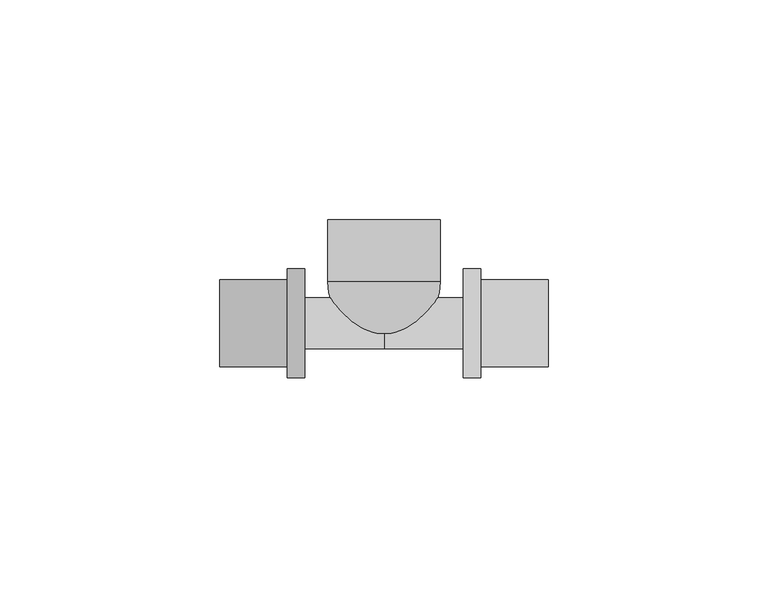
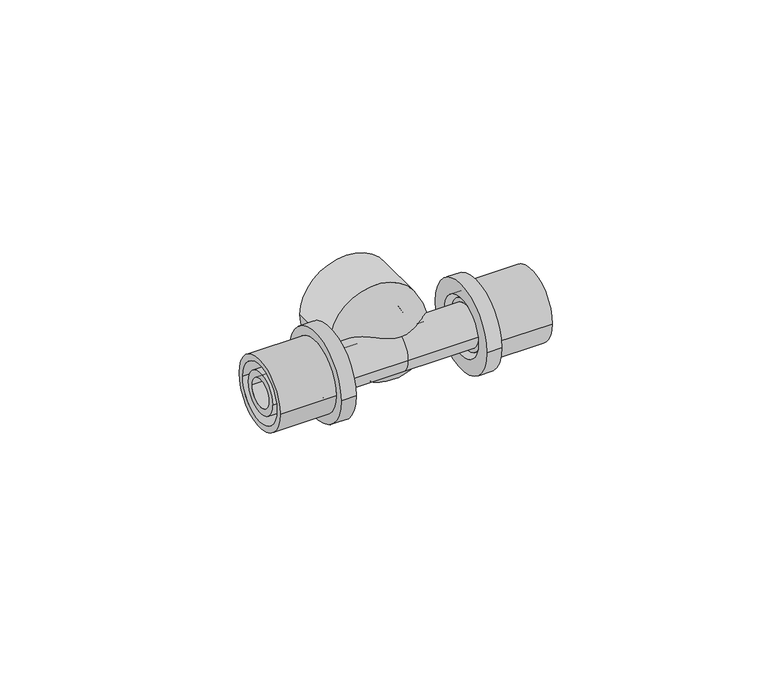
"""IFC4 building model written with IfcOpenShell, lengths in millimetres: pipe fitting geometry, FASTLOC_T-piece internal thread EX+ : FSL T thread EX+ AT."""

import ifcopenshell
import ifcopenshell.guid

model = None  # the IFC model being written
_history = None  # IfcOwnerHistory: only IFC2X3 demands one
_inside = {}  # id of a spatial element -> (the spatial element, [elements in it])
_under = {}  # id of a project, library or spatial element -> (it, [spatial elements below it])
_declared = {}  # id of a project -> (the project, [libraries it declares])
_typed = {}  # id of a type object -> (the type object, [elements of that type])
_made_of = {}  # id of a material, layer set ... -> (it, [elements and type objects made of it])


def new_model(schema):
    """Start an empty IFC model of exactly this schema.

    Asked for "IFC4X3", IfcOpenShell would pick the latest addendum, in which some entities
    have other attributes; the version numbers below select the first issue.
    IFC2X3 requires an IfcOwnerHistory on every rooted entity: one is made here for all.
    """
    global model, _history
    if schema == "IFC4X3":
        model = ifcopenshell.file(schema_version=(4, 3, 0, 0))
    else:
        model = ifcopenshell.file(schema=schema)
    _inside.clear()
    _under.clear()
    _declared.clear()
    _typed.clear()
    _made_of.clear()
    _history = None
    if model.schema == "IFC2X3":
        org = make("IfcOrganization", Name="unknown")
        user = make(
            "IfcPersonAndOrganization",
            ThePerson=make("IfcPerson", FamilyName="unknown"),
            TheOrganization=org,
        )
        app = make(
            "IfcApplication",
            ApplicationDeveloper=org,
            Version="unknown",
            ApplicationFullName="unknown",
            ApplicationIdentifier="unknown",
        )
        _history = make(
            "IfcOwnerHistory",
            OwningUser=user,
            OwningApplication=app,
            ChangeAction="ADDED",
            CreationDate=0,
        )
    return model


def make(cls, **values):
    """One entity of the class cls with the attributes given. An attribute that is None is left unset."""
    return model.create_entity(
        cls, **{name: value for name, value in values.items() if value is not None}
    )


def rooted(cls, **values):
    """An entity with a GlobalId (a new one), such as an element, a storey or a relation."""
    return make(cls, GlobalId=ifcopenshell.guid.new(), OwnerHistory=_history, **values)


def si_unit(unit_type, name, prefix=None):
    """IfcSIUnit, for example si_unit("LENGTHUNIT", "METRE", prefix="MILLI")."""
    return make("IfcSIUnit", UnitType=unit_type, Prefix=prefix, Name=name)


def assignment(units):
    """IfcUnitAssignment: the units of a project."""
    return None if units is None else make("IfcUnitAssignment", Units=units)


def point(xyz):
    """IfcCartesianPoint."""
    return None if xyz is None else make("IfcCartesianPoint", Coordinates=xyz)


def direction(xyz):
    """IfcDirection."""
    return None if xyz is None else make("IfcDirection", DirectionRatios=xyz)


def frame(location, z_axis=None, x_axis=None):
    """IfcAxis2Placement3D, a coordinate frame: its origin and axes. An axis left out is left unset."""
    return make(
        "IfcAxis2Placement3D",
        Location=point(location),
        Axis=direction(z_axis),
        RefDirection=direction(x_axis),
    )


def origin():
    """The frame at (0, 0, 0) with its axes left unset."""
    return frame((0.0, 0.0, 0.0))


def place(relative_to, where):
    """IfcLocalPlacement: puts the frame where relative to a parent placement (None: the world)."""
    return make(
        "IfcLocalPlacement", PlacementRelTo=relative_to, RelativePlacement=where
    )


def context(
    kind, dimensions, precision=None, world=None, true_north=None, identifier=None
):
    """IfcGeometricRepresentationContext, for example the 3D "Model" context."""
    return make(
        "IfcGeometricRepresentationContext",
        ContextIdentifier=identifier,
        ContextType=kind,
        CoordinateSpaceDimension=dimensions,
        Precision=precision,
        WorldCoordinateSystem=world,
        TrueNorth=true_north,
    )


def project(units=None, contexts=None):
    """IfcProject with its units and contexts."""
    return rooted(
        "IfcProject",
        Name="project",
        RepresentationContexts=contexts,
        UnitsInContext=assignment(units),
    )


def spatial(cls, under=None, at=None, **own):
    """A site, building, storey or space (cls), placed at a placement, below another one or the project."""
    s = rooted(cls, ObjectPlacement=at, **own)
    if under is not None:
        _under.setdefault(under.id(), (under, []))[1].append(s)
    return s


def polyline(points):
    """IfcPolyline through the points."""
    return make("IfcPolyline", Points=[point(p) for p in points])


def circle_curve(where, radius):
    """IfcCircle in the frame where."""
    return make("IfcCircle", Position=where, Radius=radius)


def ellipse_curve(where, semi_axis1, semi_axis2):
    """IfcEllipse in the frame where."""
    return make(
        "IfcEllipse", Position=where, SemiAxis1=semi_axis1, SemiAxis2=semi_axis2
    )


def trimmed(basis, trim1, trim2, sense, master):
    """IfcTrimmedCurve: the piece of a basis curve between two trims."""
    return make(
        "IfcTrimmedCurve",
        BasisCurve=basis,
        Trim1=trim1,
        Trim2=trim2,
        SenseAgreement=sense,
        MasterRepresentation=master,
    )


def shape(context_of_items, identifier, shape_type, items):
    """IfcShapeRepresentation: the items that make up one representation, for example the "Body"."""
    return make(
        "IfcShapeRepresentation",
        ContextOfItems=context_of_items,
        RepresentationIdentifier=identifier,
        RepresentationType=shape_type,
        Items=items,
    )


def source(mapping_origin, context_of_items, identifier, shape_type, items):
    """IfcRepresentationMap: a shape defined once, which mapped items show again and again."""
    return make(
        "IfcRepresentationMap",
        MappingOrigin=mapping_origin,
        MappedRepresentation=shape(context_of_items, identifier, shape_type, items),
    )


def transform(
    local_origin,
    x_axis=None,
    y_axis=None,
    z_axis=None,
    scale=None,
    scale2=None,
    scale3=None,
    uniform=True,
):
    """IfcCartesianTransformationOperator3D, or its non-uniform kind. x_axis, y_axis, z_axis: its Axis1, 2, 3."""
    if uniform:
        return make(
            "IfcCartesianTransformationOperator3D",
            Axis1=direction(x_axis),
            Axis2=direction(y_axis),
            LocalOrigin=point(local_origin),
            Scale=scale,
            Axis3=direction(z_axis),
        )
    return make(
        "IfcCartesianTransformationOperator3DnonUniform",
        Axis1=direction(x_axis),
        Axis2=direction(y_axis),
        LocalOrigin=point(local_origin),
        Scale=scale,
        Axis3=direction(z_axis),
        Scale2=scale2,
        Scale3=scale3,
    )


def mapped(mapping_source, mapping_target):
    """IfcMappedItem: shows the shape of a source again, moved by a transform."""
    return make(
        "IfcMappedItem", MappingSource=mapping_source, MappingTarget=mapping_target
    )


def made_of(thing, what):
    """Note that an element or type object is made of a material, layer set ...; save() writes the relation."""
    if what is not None:
        _made_of.setdefault(what.id(), (what, []))[1].append(thing)
    return thing


def element(
    cls,
    number,
    at=None,
    inside=None,
    cuts=None,
    type_object=None,
    material=None,
    context=None,
    identifier="Body",
    shape_type=None,
    held_by="IfcProductDefinitionShape",
    body=None,
    shapes=None,
    **own,
):
    """One element of the class cls, such as IfcWall. Its Tag is "e" and its number.

    at: its placement. inside: the storey or other place that contains it. cuts: it is an
    opening in that element (IfcRelVoidsElement). A single representation is given by context,
    identifier, shape_type and body (its items); several are given by shapes. held_by: the class
    of the entity that holds the representations. save() writes the other relations.
    """
    e = rooted(cls, Tag="e%d" % number, ObjectPlacement=at, **own)
    if body is not None:
        shapes = [shape(context, identifier, shape_type, body)]
    if shapes is not None:
        e.Representation = make(held_by, Representations=shapes)
    if inside is not None:
        _inside.setdefault(inside.id(), (inside, []))[1].append(e)
    if cuts is not None:
        rooted(
            "IfcRelVoidsElement", RelatingBuildingElement=cuts, RelatedOpeningElement=e
        )
    if type_object is not None:
        _typed.setdefault(type_object.id(), (type_object, []))[1].append(e)
    return made_of(e, material)


def aggregate(whole, parts):
    """IfcRelAggregates: a whole, such as a stair, and the parts it consists of."""
    return rooted("IfcRelAggregates", RelatingObject=whole, RelatedObjects=parts)


def save(model, path):
    """Write the relations noted so far, then the file.

    IfcRelAggregates (storeys below a building ...), IfcRelContainedInSpatialStructure (elements
    in a storey), IfcRelDefinesByType, IfcRelAssociatesMaterial and IfcRelDeclares: one each for
    every whole, place, type object, material and project.
    """
    for whole, parts in _under.values():
        aggregate(whole, parts)
    for where, things in _inside.values():
        rooted(
            "IfcRelContainedInSpatialStructure",
            RelatedElements=things,
            RelatingStructure=where,
        )
    for kind, things in _typed.values():
        rooted("IfcRelDefinesByType", RelatedObjects=things, RelatingType=kind)
    for what, things in _made_of.values():
        rooted("IfcRelAssociatesMaterial", RelatedObjects=things, RelatingMaterial=what)
    for by, libraries in _declared.values():
        rooted("IfcRelDeclares", RelatingContext=by, RelatedDefinitions=libraries)
    model.write(path)


def plane_surface(at):
    """IfcPlane: the flat surface through the origin of the frame at, square to its z axis."""
    return make("IfcPlane", Position=at)


def cylinder_surface(at, radius):
    """IfcCylindricalSurface: all points at the distance radius from the z axis of the frame at."""
    return make("IfcCylindricalSurface", Position=at, Radius=radius)


def revolved_surface(curve, axis_point, axis_direction):
    """IfcSurfaceOfRevolution: the curve turned about the line through axis_point along axis_direction."""
    return make(
        "IfcSurfaceOfRevolution",
        SweptCurve=make("IfcArbitraryOpenProfileDef", ProfileType="CURVE", Curve=curve),
        AxisPosition=make("IfcAxis1Placement", Location=point(axis_point), Axis=direction(axis_direction)),
    )


def advanced_brep(points, edges, surfaces, faces):
    """IfcAdvancedBrep: a solid bounded by faces that lie on surfaces and meet in shared edges.

    An edge is (start, end): straight between two places in points (the first is 0);
    or (start, end, curve); or (start, end, curve, False) where it runs against its curve.
    A face is (place in surfaces, loops), or (place, loops, False) where it looks against
    its surface's normal. A loop lists edges by number (the first is 1), with a minus sign
    where the edge is run from its end to its start. The first loop is the outer one.
    """
    corners = [point(p) for p in points]
    vertices = [make("IfcVertexPoint", VertexGeometry=c) for c in corners]
    made = []
    for start, end, *more in edges:
        made.append(
            make(
                "IfcEdgeCurve",
                EdgeStart=vertices[start],
                EdgeEnd=vertices[end],
                EdgeGeometry=more[0] if more else make("IfcPolyline", Points=[corners[start], corners[end]]),
                SameSense=more[1] if len(more) > 1 else True,
            )
        )
    hull = []
    for where, loops, *sense in faces:
        bounds = []
        for j, loop in enumerate(loops):
            ring = [make("IfcOrientedEdge", EdgeElement=made[abs(k) - 1], Orientation=k > 0) for k in loop]
            bounds.append(
                make(
                    "IfcFaceOuterBound" if j == 0 else "IfcFaceBound",
                    Bound=make("IfcEdgeLoop", EdgeList=ring),
                    Orientation=True,
                )
            )
        hull.append(make("IfcAdvancedFace", Bounds=bounds, FaceSurface=surfaces[where], SameSense=sense[0] if sense else True))
    return make("IfcAdvancedBrep", Outer=make("IfcClosedShell", CfsFaces=hull))


def pipe_fitting_15fe286b(model_context):
    return source(origin(), model_context, "Body", "AdvancedBrep", [
        advanced_brep(
        [(22.0, 12.35, 0.0), (22.0, -12.35, 0.0), (18.0, -12.35, 0.0), (18.0, 12.35, 0.0), (37.3, 9.85, 0.0), (37.3, -9.85, 0.0), (22.0, -9.85, 0.0), (22.0, 9.85, 0.0), (18.0, 8.15, 0.0), (18.0, -8.15, 0.0), (37.3, -8.15, 0.0), (37.3, 8.15, 0.0)],
        [
            (0, 1, circle_curve(frame((22.0, 0.0, 0.0), z_axis=(-1.0, 0.0, 0.0), x_axis=(0.0, -1.0, 0.0)), 12.35)),
            (1, 2),
            (2, 3, circle_curve(frame((18.0, 0.0, 0.0), z_axis=(1.0, 0.0, 0.0), x_axis=(0.0, -1.0, 0.0)), 12.35)),
            (3, 0),
            (4, 5, circle_curve(frame((37.3, 0.0, 0.0), z_axis=(-1.0, 0.0, 0.0), x_axis=(0.0, -1.0, 0.0)), 9.85)),
            (5, 6),
            (6, 7, circle_curve(frame((22.0, 0.0, 0.0), z_axis=(1.0, 0.0, 0.0), x_axis=(0.0, -1.0, 0.0)), 9.85)),
            (7, 4),
            (8, 9, circle_curve(frame((18.0, 0.0, 0.0), z_axis=(-1.0, 0.0, 0.0), x_axis=(0.0, -1.0, 0.0)), 8.15)),
            (9, 10),
            (10, 11, circle_curve(frame((37.3, 0.0, 0.0), z_axis=(1.0, 0.0, 0.0), x_axis=(0.0, -1.0, 0.0)), 8.15)),
            (11, 8),
            (1, 0, circle_curve(frame((22.0, 0.0, 0.0), z_axis=(-1.0, 0.0, 0.0), x_axis=(0.0, 1.0, 0.0)), 12.35)),
            (3, 2, circle_curve(frame((18.0, 0.0, 0.0), z_axis=(1.0, 0.0, 0.0), x_axis=(0.0, 1.0, 0.0)), 12.35)),
            (6, 7, circle_curve(frame((22.0, 0.0, 0.0), z_axis=(-1.0, 0.0, 0.0), x_axis=(0.0, 1.0, 0.0)), 9.85)),
            (5, 4, circle_curve(frame((37.3, 0.0, 0.0), z_axis=(-1.0, 0.0, 0.0), x_axis=(0.0, 1.0, 0.0)), 9.85)),
            (10, 11, circle_curve(frame((37.3, 0.0, 0.0), z_axis=(-1.0, 0.0, 0.0), x_axis=(0.0, 1.0, 0.0)), 8.15)),
            (9, 8, circle_curve(frame((18.0, 0.0, 0.0), z_axis=(-1.0, 0.0, 0.0), x_axis=(0.0, 1.0, 0.0)), 8.15)),
        ],
        [
            cylinder_surface(frame((18.0, 0.0, 0.0), z_axis=(1.0, 0.0, 0.0), x_axis=(0.0, -1.0, 0.0)), 12.35),
            cylinder_surface(frame((18.0, 0.0, 0.0), z_axis=(1.0, 0.0, 0.0), x_axis=(0.0, -1.0, 0.0)), 9.85),
            revolved_surface(polyline([(37.3, -8.15, 0.0), (18.0, -8.15, 0.0)]), (18.0, 0.0, 0.0), (1.0, 0.0, 0.0)),
            cylinder_surface(frame((18.0, 0.0, 0.0), z_axis=(1.0, 0.0, 0.0), x_axis=(0.0, 1.0, 0.0)), 12.35),
            plane_surface(frame((22.0, 0.0, 0.0), z_axis=(1.0, 0.0, 0.0), x_axis=(0.0, 1.0, 0.0))),
            cylinder_surface(frame((18.0, 0.0, 0.0), z_axis=(1.0, 0.0, 0.0), x_axis=(0.0, 1.0, 0.0)), 9.85),
            plane_surface(frame((37.3, 0.0, 0.0), z_axis=(1.0, 0.0, 0.0), x_axis=(0.0, 1.0, 0.0))),
            revolved_surface(polyline([(37.3, 8.15, 0.0), (18.0, 8.15, 0.0)]), (18.0, 0.0, 0.0), (1.0, 0.0, 0.0)),
            plane_surface(frame((18.0, 0.0, 0.0), z_axis=(-1.0, 0.0, 0.0), x_axis=(0.0, 1.0, 0.0))),
        ],
        [
            (0, [[1, 2, 3, 4]]),
            (1, [[5, 6, 7, 8]]),
            (2, [[9, 10, 11, 12]]),
            (3, [[13, -4, 14, -2]]),
            (4, [[-13, -1], [15, -7]]),
            (5, [[16, -8, -15, -6]]),
            (6, [[-16, -5], [17, -11]]),
            (7, [[18, -12, -17, -10]]),
            (8, [[-14, -3], [-18, -9]]),
        ],
    ),
        advanced_brep(
        [(-22.0, -12.35, 0.0), (-22.0, 12.35, 0.0), (-18.0, 12.35, 0.0), (-18.0, -12.35, 0.0), (-37.3, -9.85, 0.0), (-37.3, 9.85, 0.0), (-22.0, 9.85, 0.0), (-22.0, -9.85, 0.0), (-18.0, -8.15, 0.0), (-18.0, 8.15, 0.0), (-37.3, 8.15, 0.0), (-37.3, -8.15, 0.0)],
        [
            (0, 1, circle_curve(frame((-22.0, 0.0, 0.0), z_axis=(1.0, 0.0, 0.0), x_axis=(0.0, 1.0, 0.0)), 12.35)),
            (1, 2),
            (2, 3, circle_curve(frame((-18.0, 0.0, 0.0), z_axis=(-1.0, 0.0, 0.0), x_axis=(0.0, 1.0, 0.0)), 12.35)),
            (3, 0),
            (4, 5, circle_curve(frame((-37.3, 0.0, 0.0), z_axis=(1.0, 0.0, 0.0), x_axis=(0.0, 1.0, 0.0)), 9.85)),
            (5, 6),
            (6, 7, circle_curve(frame((-22.0, 0.0, 0.0), z_axis=(-1.0, 0.0, 0.0), x_axis=(0.0, 1.0, 0.0)), 9.85)),
            (7, 4),
            (8, 9, circle_curve(frame((-18.0, 0.0, 0.0), z_axis=(1.0, 0.0, 0.0), x_axis=(0.0, 1.0, 0.0)), 8.15)),
            (9, 10),
            (10, 11, circle_curve(frame((-37.3, 0.0, 0.0), z_axis=(-1.0, 0.0, 0.0), x_axis=(0.0, 1.0, 0.0)), 8.15)),
            (11, 8),
            (1, 0, circle_curve(frame((-22.0, 0.0, 0.0), z_axis=(1.0, 0.0, 0.0), x_axis=(0.0, -1.0, 0.0)), 12.35)),
            (3, 2, circle_curve(frame((-18.0, 0.0, 0.0), z_axis=(-1.0, 0.0, 0.0), x_axis=(0.0, -1.0, 0.0)), 12.35)),
            (6, 7, circle_curve(frame((-22.0, 0.0, 0.0), z_axis=(1.0, 0.0, 0.0), x_axis=(0.0, -1.0, 0.0)), 9.85)),
            (5, 4, circle_curve(frame((-37.3, 0.0, 0.0), z_axis=(1.0, 0.0, 0.0), x_axis=(0.0, -1.0, 0.0)), 9.85)),
            (10, 11, circle_curve(frame((-37.3, 0.0, 0.0), z_axis=(1.0, 0.0, 0.0), x_axis=(0.0, -1.0, 0.0)), 8.15)),
            (9, 8, circle_curve(frame((-18.0, 0.0, 0.0), z_axis=(1.0, 0.0, 0.0), x_axis=(0.0, -1.0, 0.0)), 8.15)),
        ],
        [
            cylinder_surface(frame((-18.0, 0.0, 0.0), z_axis=(-1.0, 0.0, 0.0), x_axis=(0.0, 1.0, 0.0)), 12.35),
            cylinder_surface(frame((-18.0, 0.0, 0.0), z_axis=(-1.0, 0.0, 0.0), x_axis=(0.0, 1.0, 0.0)), 9.85),
            revolved_surface(polyline([(-37.3, 8.15, 0.0), (-18.0, 8.15, 0.0)]), (-18.0, 0.0, 0.0), (-1.0, 0.0, 0.0)),
            cylinder_surface(frame((-18.0, 0.0, 0.0), z_axis=(-1.0, 0.0, 0.0), x_axis=(0.0, -1.0, 0.0)), 12.35),
            plane_surface(frame((-22.0, 0.0, 0.0), z_axis=(-1.0, 0.0, 0.0), x_axis=(0.0, -1.0, 0.0))),
            cylinder_surface(frame((-18.0, 0.0, 0.0), z_axis=(-1.0, 0.0, 0.0), x_axis=(0.0, -1.0, 0.0)), 9.85),
            plane_surface(frame((-37.3, 0.0, 0.0), z_axis=(-1.0, 0.0, 0.0), x_axis=(0.0, -1.0, 0.0))),
            revolved_surface(polyline([(-37.3, -8.15, 0.0), (-18.0, -8.15, 0.0)]), (-18.0, 0.0, 0.0), (-1.0, 0.0, 0.0)),
            plane_surface(frame((-18.0, 0.0, 0.0), z_axis=(1.0, 0.0, 0.0), x_axis=(0.0, -1.0, 0.0))),
        ],
        [
            (0, [[1, 2, 3, 4]]),
            (1, [[5, 6, 7, 8]]),
            (2, [[9, 10, 11, 12]]),
            (3, [[13, -4, 14, -2]]),
            (4, [[-13, -1], [15, -7]]),
            (5, [[16, -8, -15, -6]]),
            (6, [[-16, -5], [17, -11]]),
            (7, [[18, -12, -17, -10]]),
            (8, [[-14, -3], [-18, -9]]),
        ],
    ),
        advanced_brep(
        [(0.5, -3.3401923, 0.0), (-0.5, -3.3401923, 0.0), (-12.75, 9.4, 0.0), (12.75, 9.4, 0.0), (0.5, 1.9166852, 0.0), (-0.5, 1.9166852, 0.0), (7.5, 9.4, 0.0), (-7.5, 9.4, 0.0), (7.5, 23.5, 0.0), (-7.5, 23.5, 0.0), (-12.75, 23.5, 0.0), (12.75, 23.5, 0.0)],
        [
            (0, 1, circle_curve(frame((0.0, -3.3401923, 0.0), z_axis=(0.0, 1.0, 0.0), x_axis=(-1.0, 0.0, 0.0)), 0.5)),
            (1, 2, circle_curve(frame((0.0, 9.4, 0.0), z_axis=(0.0, 0.0, -1.0), x_axis=(0.0, 1.0, 0.0)), 12.75)),
            (2, 3, circle_curve(frame((0.0, 9.4, 0.0), z_axis=(0.0, -1.0, 0.0), x_axis=(-1.0, 0.0, 0.0)), 12.75)),
            (3, 0, circle_curve(frame((0.0, 9.4, 0.0), z_axis=(0.0, 0.0, -1.0), x_axis=(0.0, 1.0, 0.0)), 12.75)),
            (4, 5, circle_curve(frame((0.0, 1.9166852, 0.0), z_axis=(0.0, 1.0, 0.0), x_axis=(-1.0, 0.0, 0.0)), 0.5)),
            (5, 1),
            (0, 4),
            (6, 7, circle_curve(frame((0.0, 9.4, 0.0), z_axis=(0.0, 1.0, 0.0), x_axis=(-1.0, 0.0, 0.0)), 7.5)),
            (7, 5, circle_curve(frame((0.0, 9.4, 0.0), z_axis=(0.0, 0.0, 1.0), x_axis=(0.0, 1.0, 0.0)), 7.5)),
            (4, 6, circle_curve(frame((0.0, 9.4, 0.0), z_axis=(0.0, 0.0, 1.0), x_axis=(0.0, 1.0, 0.0)), 7.5)),
            (8, 9, circle_curve(frame((0.0, 23.5, 0.0), z_axis=(0.0, 1.0, 0.0), x_axis=(-1.0, 0.0, 0.0)), 7.5)),
            (9, 7),
            (6, 8),
            (2, 10),
            (10, 11, circle_curve(frame((0.0, 23.5, 0.0), z_axis=(0.0, -1.0, 0.0), x_axis=(-1.0, 0.0, 0.0)), 12.75)),
            (11, 3),
            (1, 0, circle_curve(frame((0.0, -3.3401923, 0.0), z_axis=(0.0, 1.0, 0.0), x_axis=(1.0, 0.0, 0.0)), 0.5)),
            (3, 2, circle_curve(frame((0.0, 9.4, 0.0), z_axis=(0.0, -1.0, 0.0), x_axis=(1.0, 0.0, 0.0)), 12.75)),
            (5, 4, circle_curve(frame((0.0, 1.9166852, 0.0), z_axis=(0.0, 1.0, 0.0), x_axis=(1.0, 0.0, 0.0)), 0.5)),
            (7, 6, circle_curve(frame((0.0, 9.4, 0.0), z_axis=(0.0, 1.0, 0.0), x_axis=(1.0, 0.0, 0.0)), 7.5)),
            (9, 8, circle_curve(frame((0.0, 23.5, 0.0), z_axis=(0.0, 1.0, 0.0), x_axis=(1.0, 0.0, 0.0)), 7.5)),
            (10, 11, circle_curve(frame((0.0, 23.5, 0.0), z_axis=(0.0, 1.0, 0.0), x_axis=(1.0, 0.0, 0.0)), 12.75)),
        ],
        [
            revolved_surface(trimmed(ellipse_curve(frame((0.0, 9.4, 0.0), z_axis=(0.0, 0.0, 1.0), x_axis=(0.0, 1.0, 0.0)), 12.75, 12.75), [point((-12.75, 9.4, 0.0))], [point((-0.5, -3.3401923, 0.0))], True, "CARTESIAN"), (0.0, 0.0, 0.0), (0.0, -1.0, 0.0)),
            revolved_surface(polyline([(-0.5, -3.3401923, 0.0), (-0.5, 1.9166852, 0.0)]), (0.0, 0.0, 0.0), (0.0, -1.0, 0.0)),
            revolved_surface(trimmed(ellipse_curve(frame((0.0, 9.4, 0.0), z_axis=(0.0, 0.0, -1.0), x_axis=(0.0, 1.0, 0.0)), 7.5, 7.5), [point((-0.5, 1.9166852, 0.0))], [point((-7.5, 9.4, 0.0))], True, "CARTESIAN"), (0.0, 0.0, 0.0), (0.0, -1.0, 0.0)),
            revolved_surface(polyline([(-7.5, 9.4, 0.0), (-7.5, 23.5, 0.0)]), (0.0, 0.0, 0.0), (0.0, -1.0, 0.0)),
            cylinder_surface(frame((0.0, 0.0, 0.0), z_axis=(0.0, -1.0, 0.0), x_axis=(-1.0, 0.0, 0.0)), 12.75),
            revolved_surface(trimmed(ellipse_curve(frame((0.0, 9.4, 0.0), z_axis=(0.0, 0.0, -1.0), x_axis=(0.0, 1.0, 0.0)), 12.75, 12.75), [point((12.75, 9.4, 0.0))], [point((0.5, -3.3401923, 0.0))], True, "CARTESIAN"), (0.0, 0.0, 0.0), (0.0, -1.0, 0.0)),
            revolved_surface(polyline([(0.5, -3.3401923, 0.0), (0.5, 1.9166852, 0.0)]), (0.0, 0.0, 0.0), (0.0, -1.0, 0.0)),
            revolved_surface(trimmed(ellipse_curve(frame((0.0, 9.4, 0.0), z_axis=(0.0, 0.0, 1.0), x_axis=(0.0, 1.0, 0.0)), 7.5, 7.5), [point((0.5, 1.9166852, 0.0))], [point((7.5, 9.4, 0.0))], True, "CARTESIAN"), (0.0, 0.0, 0.0), (0.0, -1.0, 0.0)),
            revolved_surface(polyline([(7.5, 9.4, 0.0), (7.5, 23.5, 0.0)]), (0.0, 0.0, 0.0), (0.0, -1.0, 0.0)),
            plane_surface(frame((0.0, 23.5, 0.0), z_axis=(0.0, 1.0, 0.0), x_axis=(1.0, 0.0, 0.0))),
            cylinder_surface(frame((0.0, 0.0, 0.0), z_axis=(0.0, -1.0, 0.0), x_axis=(1.0, 0.0, 0.0)), 12.75),
        ],
        [
            (0, [[1, 2, 3, 4]]),
            (1, [[5, 6, -1, 7]]),
            (2, [[8, 9, -5, 10]]),
            (3, [[11, 12, -8, 13]]),
            (4, [[-3, 14, 15, 16]]),
            (5, [[17, -4, 18, -2]]),
            (6, [[19, -7, -17, -6]]),
            (7, [[20, -10, -19, -9]]),
            (8, [[21, -13, -20, -12]]),
            (9, [[22, -15], [-21, -11]]),
            (10, [[-18, -16, -22, -14]]),
        ],
    ),
        advanced_brep(
        [(22.0, 6.9, 0.0), (22.0, -6.9, 0.0), (19.3, -6.9, 0.0), (19.3, 6.9, 0.0), (37.1, 5.8, 0.0), (37.1, -5.8, 0.0), (22.0, -5.8, 0.0), (22.0, 5.8, 0.0), (-37.1, 3.95, 0.0), (-37.1, -3.95, 0.0), (37.1, -3.95, 0.0), (37.1, 3.95, 0.0), (-22.0, 5.8, 0.0), (-22.0, -5.8, 0.0), (-37.1, -5.8, 0.0), (-37.1, 5.8, 0.0), (-19.3, 6.9, 0.0), (-19.3, -6.9, 0.0), (-22.0, -6.9, 0.0), (-22.0, 6.9, 0.0), (0.0, 5.8, 0.0), (0.0, -5.8, 0.0), (-19.3, -5.8, 0.0), (-19.3, 5.8, 0.0), (19.3, 5.8, 0.0), (19.3, -5.8, 0.0)],
        [
            (0, 1, circle_curve(frame((22.0, 0.0, 0.0), z_axis=(-1.0, 0.0, 0.0), x_axis=(0.0, -1.0, 0.0)), 6.9)),
            (1, 2),
            (2, 3, circle_curve(frame((19.3, 0.0, 0.0), z_axis=(1.0, 0.0, 0.0), x_axis=(0.0, -1.0, 0.0)), 6.9)),
            (3, 0),
            (4, 5, circle_curve(frame((37.1, 0.0, 0.0), z_axis=(-1.0, 0.0, 0.0), x_axis=(0.0, -1.0, 0.0)), 5.8)),
            (5, 6),
            (6, 7, circle_curve(frame((22.0, 0.0, 0.0), z_axis=(1.0, 0.0, 0.0), x_axis=(0.0, -1.0, 0.0)), 5.8)),
            (7, 4),
            (8, 9, circle_curve(frame((-37.1, 0.0, 0.0), z_axis=(-1.0, 0.0, 0.0), x_axis=(0.0, -1.0, 0.0)), 3.95)),
            (9, 10),
            (10, 11, circle_curve(frame((37.1, 0.0, 0.0), z_axis=(1.0, 0.0, 0.0), x_axis=(0.0, -1.0, 0.0)), 3.95)),
            (11, 8),
            (12, 13, circle_curve(frame((-22.0, 0.0, 0.0), z_axis=(-1.0, 0.0, 0.0), x_axis=(0.0, -1.0, 0.0)), 5.8)),
            (13, 14),
            (14, 15, circle_curve(frame((-37.1, 0.0, 0.0), z_axis=(1.0, 0.0, 0.0), x_axis=(0.0, -1.0, 0.0)), 5.8)),
            (15, 12),
            (16, 17, circle_curve(frame((-19.3, 0.0, 0.0), z_axis=(-1.0, 0.0, 0.0), x_axis=(0.0, -1.0, 0.0)), 6.9)),
            (17, 18),
            (18, 19, circle_curve(frame((-22.0, 0.0, 0.0), z_axis=(1.0, 0.0, 0.0), x_axis=(0.0, -1.0, 0.0)), 6.9)),
            (19, 16),
            (20, 21, circle_curve(frame((0.0, 0.0, 0.0), z_axis=(-1.0, 0.0, 0.0), x_axis=(0.0, -1.0, 0.0)), 5.8)),
            (21, 22),
            (22, 23, circle_curve(frame((-19.3, 0.0, 0.0), z_axis=(1.0, 0.0, 0.0), x_axis=(0.0, -1.0, 0.0)), 5.8)),
            (23, 20),
            (24, 25, circle_curve(frame((19.3, 0.0, 0.0), z_axis=(-1.0, 0.0, 0.0), x_axis=(0.0, -1.0, 0.0)), 5.8)),
            (25, 21),
            (20, 24),
            (1, 0, circle_curve(frame((22.0, 0.0, 0.0), z_axis=(-1.0, 0.0, 0.0), x_axis=(0.0, 1.0, 0.0)), 6.9)),
            (3, 2, circle_curve(frame((19.3, 0.0, 0.0), z_axis=(1.0, 0.0, 0.0), x_axis=(0.0, 1.0, 0.0)), 6.9)),
            (6, 7, circle_curve(frame((22.0, 0.0, 0.0), z_axis=(-1.0, 0.0, 0.0), x_axis=(0.0, 1.0, 0.0)), 5.8)),
            (5, 4, circle_curve(frame((37.1, 0.0, 0.0), z_axis=(-1.0, 0.0, 0.0), x_axis=(0.0, 1.0, 0.0)), 5.8)),
            (10, 11, circle_curve(frame((37.1, 0.0, 0.0), z_axis=(-1.0, 0.0, 0.0), x_axis=(0.0, 1.0, 0.0)), 3.95)),
            (9, 8, circle_curve(frame((-37.1, 0.0, 0.0), z_axis=(-1.0, 0.0, 0.0), x_axis=(0.0, 1.0, 0.0)), 3.95)),
            (14, 15, circle_curve(frame((-37.1, 0.0, 0.0), z_axis=(-1.0, 0.0, 0.0), x_axis=(0.0, 1.0, 0.0)), 5.8)),
            (13, 12, circle_curve(frame((-22.0, 0.0, 0.0), z_axis=(-1.0, 0.0, 0.0), x_axis=(0.0, 1.0, 0.0)), 5.8)),
            (18, 19, circle_curve(frame((-22.0, 0.0, 0.0), z_axis=(-1.0, 0.0, 0.0), x_axis=(0.0, 1.0, 0.0)), 6.9)),
            (17, 16, circle_curve(frame((-19.3, 0.0, 0.0), z_axis=(-1.0, 0.0, 0.0), x_axis=(0.0, 1.0, 0.0)), 6.9)),
            (22, 23, circle_curve(frame((-19.3, 0.0, 0.0), z_axis=(-1.0, 0.0, 0.0), x_axis=(0.0, 1.0, 0.0)), 5.8)),
            (21, 20, circle_curve(frame((0.0, 0.0, 0.0), z_axis=(-1.0, 0.0, 0.0), x_axis=(0.0, 1.0, 0.0)), 5.8)),
            (25, 24, circle_curve(frame((19.3, 0.0, 0.0), z_axis=(-1.0, 0.0, 0.0), x_axis=(0.0, 1.0, 0.0)), 5.8)),
        ],
        [
            cylinder_surface(frame((0.0, 0.0, 0.0), z_axis=(1.0, 0.0, 0.0), x_axis=(0.0, -1.0, 0.0)), 6.9),
            cylinder_surface(frame((0.0, 0.0, 0.0), z_axis=(1.0, 0.0, 0.0), x_axis=(0.0, -1.0, 0.0)), 5.8),
            revolved_surface(polyline([(37.1, -3.95, 0.0), (-37.1, -3.95, 0.0)]), (0.0, 0.0, 0.0), (1.0, 0.0, 0.0)),
            cylinder_surface(frame((0.0, 0.0, 0.0), z_axis=(1.0, 0.0, 0.0), x_axis=(0.0, 1.0, 0.0)), 6.9),
            plane_surface(frame((22.0, 0.0, 0.0), z_axis=(1.0, 0.0, 0.0), x_axis=(0.0, 1.0, 0.0))),
            cylinder_surface(frame((0.0, 0.0, 0.0), z_axis=(1.0, 0.0, 0.0), x_axis=(0.0, 1.0, 0.0)), 5.8),
            plane_surface(frame((37.1, 0.0, 0.0), z_axis=(1.0, 0.0, 0.0), x_axis=(0.0, 1.0, 0.0))),
            revolved_surface(polyline([(37.1, 3.95, 0.0), (-37.1, 3.95, 0.0)]), (0.0, 0.0, 0.0), (1.0, 0.0, 0.0)),
            plane_surface(frame((-37.1, 0.0, 0.0), z_axis=(-1.0, 0.0, 0.0), x_axis=(0.0, 1.0, 0.0))),
            plane_surface(frame((-22.0, 0.0, 0.0), z_axis=(-1.0, 0.0, 0.0), x_axis=(0.0, 1.0, 0.0))),
            plane_surface(frame((-19.3, 0.0, 0.0), z_axis=(1.0, 0.0, 0.0), x_axis=(0.0, 1.0, 0.0))),
            plane_surface(frame((19.3, 0.0, 0.0), z_axis=(-1.0, 0.0, 0.0), x_axis=(0.0, 1.0, 0.0))),
        ],
        [
            (0, [[1, 2, 3, 4]]),
            (1, [[5, 6, 7, 8]]),
            (2, [[9, 10, 11, 12]]),
            (1, [[13, 14, 15, 16]]),
            (0, [[17, 18, 19, 20]]),
            (1, [[21, 22, 23, 24]]),
            (1, [[25, 26, -21, 27]]),
            (3, [[28, -4, 29, -2]]),
            (4, [[-28, -1], [30, -7]]),
            (5, [[31, -8, -30, -6]]),
            (6, [[-31, -5], [32, -11]]),
            (7, [[33, -12, -32, -10]]),
            (8, [[34, -15], [-33, -9]]),
            (5, [[35, -16, -34, -14]]),
            (9, [[36, -19], [-35, -13]]),
            (3, [[37, -20, -36, -18]]),
            (10, [[-37, -17], [38, -23]]),
            (5, [[39, -24, -38, -22]]),
            (5, [[40, -27, -39, -26]]),
            (11, [[-29, -3], [-40, -25]]),
        ],
    ),
    ])


if __name__ == "__main__":
    model = new_model("IFC4")
    model_context = context("Model", 3, world=origin())
    ifc_project = project(units=[si_unit("LENGTHUNIT", "METRE", prefix="MILLI")], contexts=[model_context])
    site = spatial("IfcSite", under=ifc_project)
    building = spatial("IfcBuilding", under=site)
    placement = place(None, origin())
    pipe_fitting_shape = pipe_fitting_15fe286b(model_context)
    element("IfcPipeFitting", 1, ObjectType="FASTLOC_T-piece internal thread EX+ : FSL T thread EX+ AT", at=placement, inside=building, context=model_context, shape_type="MappedRepresentation", body=[
        mapped(pipe_fitting_shape, transform((0.0, 0.0, 0.0), x_axis=(1.0, 0.0, 0.0), y_axis=(0.0, 1.0, 0.0), z_axis=(0.0, 0.0, 1.0))),
    ])
    save(model, "model.ifc")
